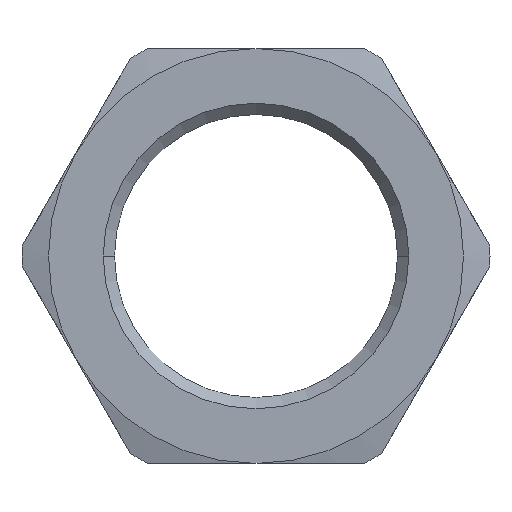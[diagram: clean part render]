
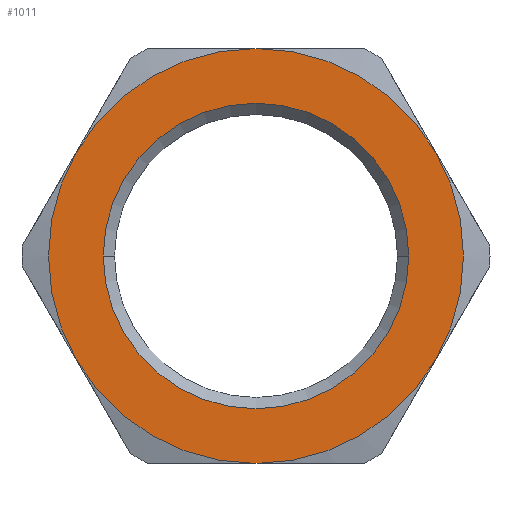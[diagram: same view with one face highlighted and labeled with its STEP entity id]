
A CAD part, left-side view. The second image highlights one B-rep face of the part: STEP entity #1011.
In plain terms, the highlighted planar face has unit normal (-1, 0, 0) as drawn and (0, 0, 1) by its records, which use the part's own axes.
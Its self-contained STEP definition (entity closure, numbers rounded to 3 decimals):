
#299=CARTESIAN_POINT('',(0.,13.25,4.));
#300=VERTEX_POINT('',#299);
#314=CARTESIAN_POINT('',(0.,-13.25,4.0));
#315=VERTEX_POINT('',#314);
#322=CARTESIAN_POINT('',(0.,0.,4.0));
#323=DIRECTION('',(0.0,0.0,-1.0));
#324=DIRECTION('',(0.0,1.0,0.0));
#325=AXIS2_PLACEMENT_3D('',#322,#323,#324);
#326=CIRCLE('',#325,13.25);
#327=EDGE_CURVE('',#300,#315,#326,.T.);
#338=CARTESIAN_POINT('',(0.,0.,4.0));
#339=DIRECTION('',(0.0,0.0,-1.0));
#340=DIRECTION('',(0.0,1.0,0.0));
#341=AXIS2_PLACEMENT_3D('',#338,#339,#340);
#342=CIRCLE('',#341,13.25);
#343=EDGE_CURVE('',#315,#300,#342,.T.);
#626=CARTESIAN_POINT('',(-18.0,0.,4.0));
#627=VERTEX_POINT('',#626);
#641=CARTESIAN_POINT('',(-9.0,15.588,4.0));
#642=VERTEX_POINT('',#641);
#643=CARTESIAN_POINT('',(0.,0.0,4.0));
#644=DIRECTION('',(0.0,0.0,1.0));
#645=DIRECTION('',(1.0,0.0,0.0));
#646=AXIS2_PLACEMENT_3D('',#643,#644,#645);
#647=CIRCLE('',#646,18.);
#648=EDGE_CURVE('',#642,#627,#647,.T.);
#702=CARTESIAN_POINT('',(-9.0,-15.588,4.0));
#703=VERTEX_POINT('',#702);
#717=CARTESIAN_POINT('',(0.,0.0,4.0));
#718=DIRECTION('',(0.0,0.0,1.0));
#719=DIRECTION('',(1.0,0.0,0.0));
#720=AXIS2_PLACEMENT_3D('',#717,#718,#719);
#721=CIRCLE('',#720,18.);
#722=EDGE_CURVE('',#627,#703,#721,.T.);
#764=CARTESIAN_POINT('',(9.,-15.588,4.0));
#765=VERTEX_POINT('',#764);
#779=CARTESIAN_POINT('',(0.,0.0,4.0));
#780=DIRECTION('',(0.0,0.0,1.0));
#781=DIRECTION('',(1.0,0.0,0.0));
#782=AXIS2_PLACEMENT_3D('',#779,#780,#781);
#783=CIRCLE('',#782,18.);
#784=EDGE_CURVE('',#703,#765,#783,.T.);
#827=CARTESIAN_POINT('',(18.0,0.0,4.0));
#828=VERTEX_POINT('',#827);
#842=CARTESIAN_POINT('',(0.,0.0,4.0));
#843=DIRECTION('',(0.0,0.0,1.0));
#844=DIRECTION('',(1.0,0.0,0.0));
#845=AXIS2_PLACEMENT_3D('',#842,#843,#844);
#846=CIRCLE('',#845,18.);
#847=EDGE_CURVE('',#765,#828,#846,.T.);
#872=CARTESIAN_POINT('',(9.,15.588,4.0));
#873=VERTEX_POINT('',#872);
#874=CARTESIAN_POINT('',(0.,0.0,4.0));
#875=DIRECTION('',(0.0,0.0,1.0));
#876=DIRECTION('',(1.0,0.0,0.0));
#877=AXIS2_PLACEMENT_3D('',#874,#875,#876);
#878=CIRCLE('',#877,18.);
#879=EDGE_CURVE('',#873,#642,#878,.T.);
#917=CARTESIAN_POINT('',(0.,0.0,4.0));
#918=DIRECTION('',(0.0,0.0,1.0));
#919=DIRECTION('',(1.0,0.0,0.0));
#920=AXIS2_PLACEMENT_3D('',#917,#918,#919);
#921=CIRCLE('',#920,18.);
#922=EDGE_CURVE('',#828,#873,#921,.T.);
#994=CARTESIAN_POINT('',(0.0,0.,4.0));
#995=DIRECTION('',(0.0,0.0,1.0));
#996=DIRECTION('',(1.0,0.0,0.0));
#997=AXIS2_PLACEMENT_3D('',#994,#995,#996);
#998=PLANE('',#997);
#999=ORIENTED_EDGE('',*,*,#847,.T.);
#1000=ORIENTED_EDGE('',*,*,#922,.T.);
#1001=ORIENTED_EDGE('',*,*,#879,.T.);
#1002=ORIENTED_EDGE('',*,*,#648,.T.);
#1003=ORIENTED_EDGE('',*,*,#722,.T.);
#1004=ORIENTED_EDGE('',*,*,#784,.T.);
#1005=EDGE_LOOP('',(#999,#1000,#1001,#1002,#1003,#1004));
#1006=FACE_OUTER_BOUND('',#1005,.T.);
#1007=ORIENTED_EDGE('',*,*,#327,.T.);
#1008=ORIENTED_EDGE('',*,*,#343,.T.);
#1009=EDGE_LOOP('',(#1007,#1008));
#1010=FACE_BOUND('',#1009,.T.);
#1011=ADVANCED_FACE('',(#1006,#1010),#998,.T.);
